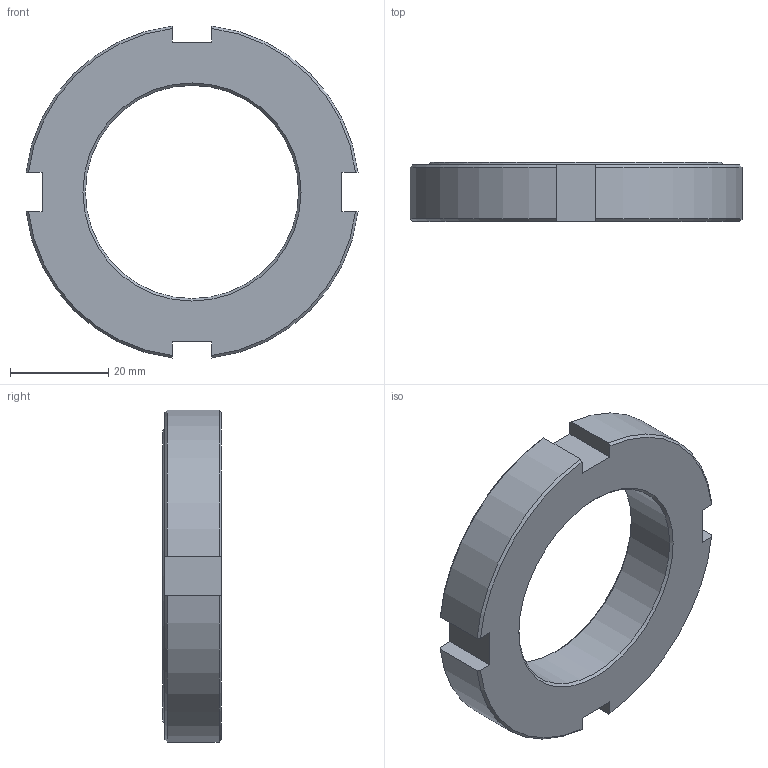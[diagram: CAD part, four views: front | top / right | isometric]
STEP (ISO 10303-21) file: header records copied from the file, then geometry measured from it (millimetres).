
FILE_DESCRIPTION(/* description */ (''),/* implementation_level */ '2;1');
FILE_NAME(/* name */ 'C:\Users\Jefferson\Desktop\Biblioteca Pro Nitro 2024\Flanges\PNB-24-XXX\PNB-24-M45.stp',/* time_stamp */ '2024-01-29T14:41:58-03:00',/* author */ ('Jefferson'),/* organization */ (''),/* preprocessor_version */ 'ST-DEVELOPER v18.1',/* originating_system */ 'Autodesk Inventor 2021',/* authorisation */ '');
FILE_SCHEMA (('AUTOMOTIVE_DESIGN { 1 0 10303 214 3 1 1 }'));
Length unit declared in the file: millimetre
Products named in the file (1): PNB-24-M45
Bounding box: 67.53 x 12 x 67.53 mm (x, y, z)
Volume: 24081.3 mm3; surface area: 8343.7 mm2
Topology: 1 solids, 1 shells, 182 faces, 491 edges, 327 vertices
Faces by surface type: plane 120, bspline 46, cone 11, cylinder 5
Full cylindrical faces by diameter (mm): 43.376 x1
Entity records: 5915 total; most frequent: CARTESIAN_POINT 1631, ORIENTED_EDGE 982, DIRECTION 680, EDGE_CURVE 491, LINE 360, VECTOR 360, VERTEX_POINT 327, EDGE_LOOP 200
